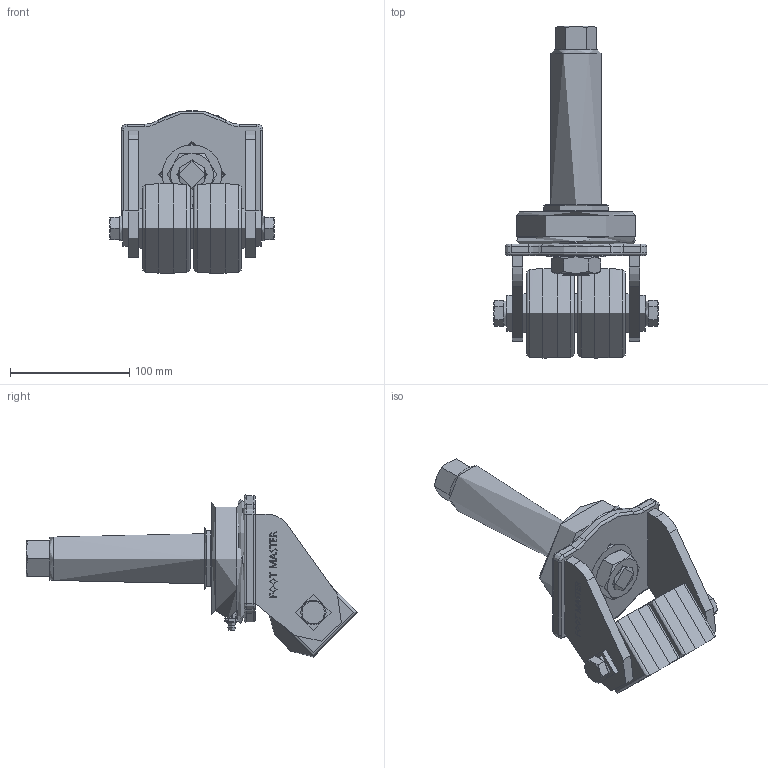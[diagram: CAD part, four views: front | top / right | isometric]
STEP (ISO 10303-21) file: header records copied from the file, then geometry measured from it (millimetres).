
FILE_DESCRIPTION(/* description */ (''),/* implementation_level */ '2;1');
FILE_NAME(/* name */ 'C:\Users\admin\Desktop\업무폴더\일자별 업무\2024\03월\03.08\홈페이지용 3D\3D\GXTT-75-ASS-HUD-PM42x130L.stp',/* time_stamp */ '2024-03-13T17:30:55+09:00',/* author */ ('admin'),/* organization */ (''),/* preprocessor_version */ 'ST-DEVELOPER v18.1',/* originating_system */ 'Autodesk Inventor 2021',/* authorisation */ '');
FILE_SCHEMA (('CONFIG_CONTROL_DESIGN'));
Length unit declared in the file: millimetre
Products named in the file (1): GXTT-75-ASS-HUD-PM42x130L_PART
Bounding box: 138 x 278.5 x 136.06 mm (x, y, z)
Topology: 1 solids, 9 shells, 508 faces, 1241 edges, 795 vertices
Faces by surface type: plane 294, bspline 89, cone 48, cylinder 47, torus 30
Full cylindrical faces by diameter (mm): 1 x1, 20.6 x2, 24 x1, 30 x2, 33 x3, 36 x1, 42 x1, 50 x1, 54 x2, 60 x1, 75 x2, 85 x1, 100 x1
Entity records: 15540 total; most frequent: CARTESIAN_POINT 4135, ORIENTED_EDGE 2500, DIRECTION 2078, EDGE_CURVE 1250, VERTEX_POINT 795, LINE 762, VECTOR 762, AXIS2_PLACEMENT_3D 658
